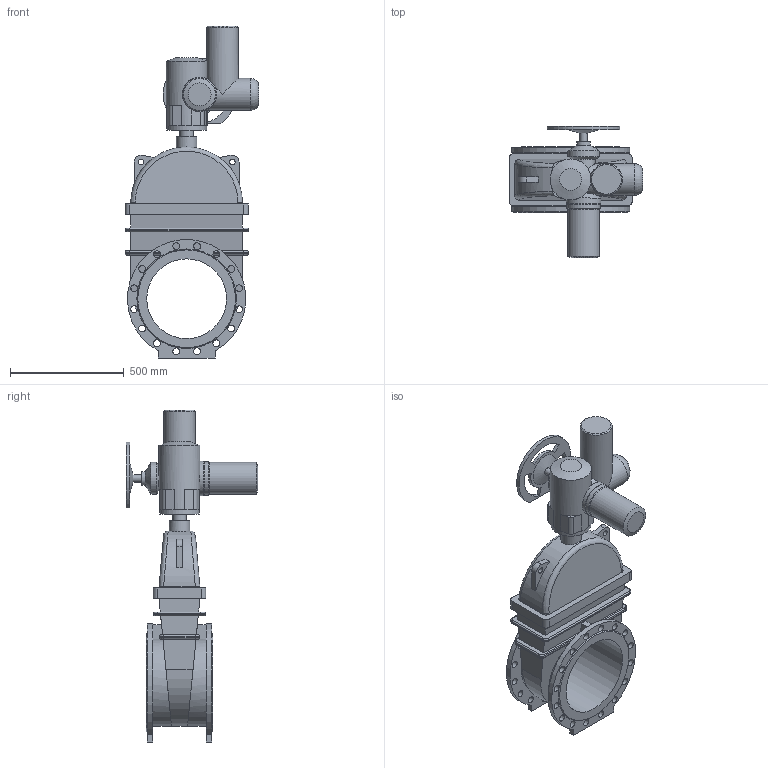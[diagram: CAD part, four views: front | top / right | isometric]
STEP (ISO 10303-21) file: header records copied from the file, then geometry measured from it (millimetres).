
FILE_DESCRIPTION(('STEP AP203'), '1');
FILE_NAME('青溻桄赅 47GVA.Z DN350 PN10_PN16 +MT903.A30', '', ('UNSPECIFIED'), ('UNSPECIFIED'), 'ASCON STEP Converter 1.6', 'ASCON Math Kernel', '');
FILE_SCHEMA(('CONFIG_CONTROL_DESIGN'));
Length unit declared in the file: millimetre
Bounding box: 587 x 578 x 1457 mm (x, y, z)
Volume: 73760026.3 mm3; surface area: 2847836.9 mm2
Topology: 2 solids, 2 shells, 286 faces, 717 edges, 461 vertices
Faces by surface type: cylinder 129, plane 127, cone 11, bspline 10, torus 9
Full cylindrical faces by diameter (mm): 14 x4, 18 x4, 25 x2, 30 x33, 32 x1, 60 x2, 90 x1, 100 x3, 140 x4, 147 x1, 151 x1, 175 x1, 350 x1
Entity records: 13086 total; most frequent: CARTESIAN_POINT 4008, DIRECTION 1387, ORIENTED_EDGE 1296, EDGE_CURVE 648, AXIS2_PLACEMENT_3D 537, EDGE_LOOP 465, VERTEX_POINT 461, FACE_BOUND 333
